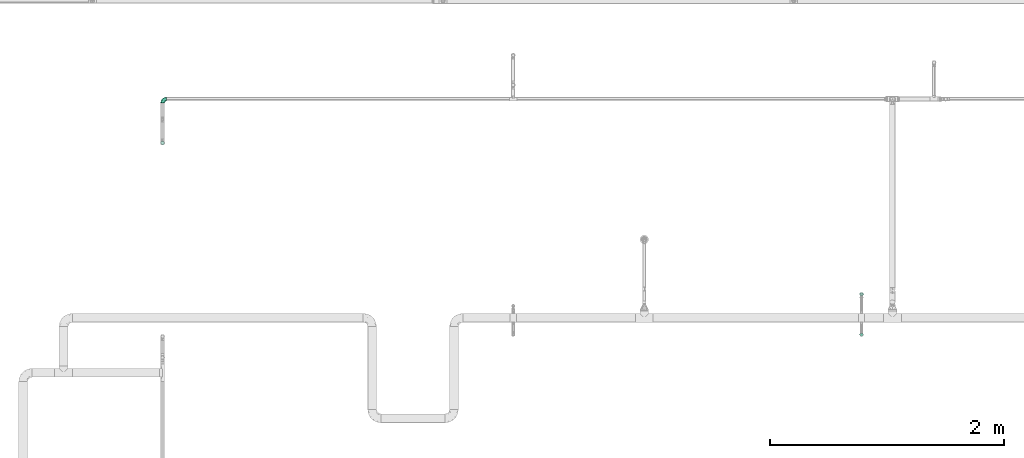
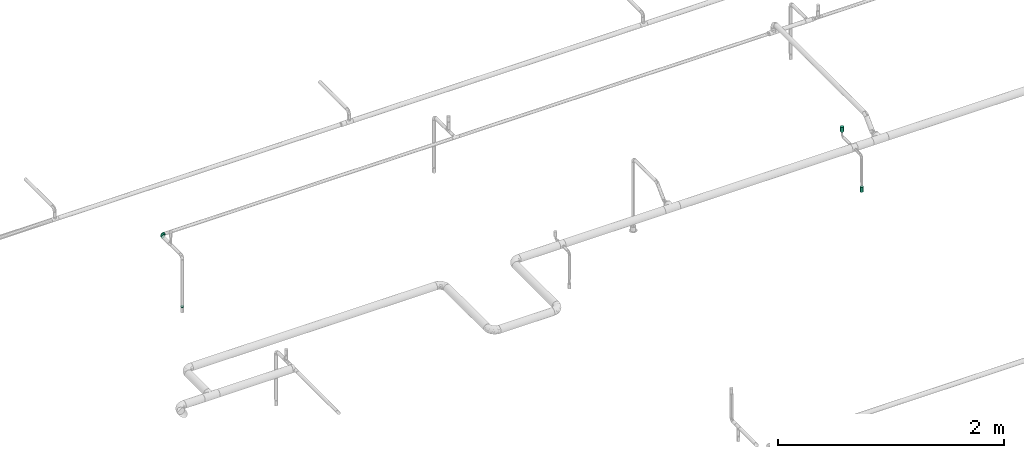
# One storey, part 27 of 51: 2 flow fittings, 2 flow terminals.
"""IFC2X3 building model written with IfcOpenShell, lengths in millimetres."""

from ifc_helpers import new_model, entity, si_unit, converted_unit, derived_unit, direction, frame, origin_with_axes, place, context, subcontext, project, spatial, open_shell, surface_model, source, transform, mapped, type_object, element, save


model = new_model("IFC2X3")

# Units and contexts
model_context = context("Model", 3, precision=0.01, world=frame((0.0, 4.29681676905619e-09, 0.0)), true_north=direction((4.01073788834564e-13, 1.0)))
plan_context = context("Plan", 3, precision=0.01, world=frame((0.0, 4.29681676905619e-09, 0.0)), true_north=direction((4.01073788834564e-13, 1.0)))
body_context = subcontext(model_context, "Body", "Model", "MODEL_VIEW")
ifc_project = project(units=[converted_unit("PLANEANGLEUNIT", "DEGREE", entity("IfcPositiveLengthMeasure", 0.0174532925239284), si_unit("PLANEANGLEUNIT", "RADIAN"), dimensions=[0, 0, 0, 0, 0, 0, 0]), si_unit("AREAUNIT", "SQUARE_METRE"), si_unit("LENGTHUNIT", "METRE", prefix="MILLI"), si_unit("MASSUNIT", "GRAM", prefix="KILO"), si_unit("POWERUNIT", "WATT"), si_unit("PRESSUREUNIT", "PASCAL"), si_unit("FORCEUNIT", "NEWTON", prefix="KILO"), si_unit("ELECTRICVOLTAGEUNIT", "VOLT"), si_unit("ELECTRICCURRENTUNIT", "AMPERE"), si_unit("THERMODYNAMICTEMPERATUREUNIT", "DEGREE_CELSIUS"), si_unit("TIMEUNIT", "SECOND"), si_unit("VOLUMEUNIT", "CUBIC_METRE"), derived_unit("LINEARVELOCITYUNIT", [(si_unit("LENGTHUNIT", "METRE"), 1), (si_unit("TIMEUNIT", "SECOND"), -1)]), derived_unit("VOLUMETRICFLOWRATEUNIT", [(si_unit("VOLUMEUNIT", "CUBIC_METRE"), 1), (si_unit("TIMEUNIT", "SECOND"), -1)]), derived_unit("THERMALTRANSMITTANCEUNIT", [(si_unit("POWERUNIT", "WATT"), 1), (si_unit("THERMODYNAMICTEMPERATUREUNIT", "KELVIN"), -1), (si_unit("AREAUNIT", "SQUARE_METRE"), -1)]), derived_unit("SOUNDPRESSUREUNIT", [(si_unit("PRESSUREUNIT", "PASCAL"), 1)])], contexts=[model_context, plan_context])

# Site, building, storey
site_placement = place(None, frame((0.0, -4.29681676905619e-09, 0.0), z_axis=(0.0, 0.0, 1.0), x_axis=(1.0, 0.0, 0.0)))
site = spatial("IfcSite", under=ifc_project, at=site_placement, Name="ENGM", CompositionType="ELEMENT")
building_placement = place(site_placement, frame((0.0, 4.29681676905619e-09, 0.0), z_axis=(0.0, 0.0, 1.0), x_axis=(1.0, 0.0, 0.0)))
building = spatial("IfcBuilding", under=site, at=building_placement, Name="TH", CompositionType="ELEMENT")
storey_placement = place(building_placement, frame((0.0, 0.0, 210200.0), z_axis=(0.0, 0.0, 1.0), x_axis=(1.0, 0.0, 0.0)))
storey = spatial("IfcBuildingStorey", under=building, at=storey_placement, Name="Nivå F - 0,7 m", CompositionType="ELEMENT", Elevation=210200.0)

# Flow fittings
pipe_fitting_type_1 = type_object("IfcPipeFittingType", Name="magi_pipe_fe_elbow_short_001", PredefinedType="BEND")
shared_shape_1 = source(origin_with_axes(), body_context, "Body", "SurfaceModel", [
    surface_model("IfcShellBasedSurfaceModel", [(-33.8, 8.45, -14.63583), (-33.8, 4.37404, -16.32415), (-33.8, 11.9501, -11.9501), (-33.8, -11.9501, -11.9501), (-33.8, -14.63583, -8.45), (-33.8, -8.45, -14.63583), (-33.8, 0.0, -16.9), (-33.8, -4.37404, -16.32415), (-33.8, -4.37404, 16.32415), (-33.8, 0.0, 16.9), (-33.8, -8.45, 14.63583), (-33.8, 16.32415, -4.37404), (-33.8, 14.63583, -8.45), (-33.8, -16.32415, -4.37404), (-33.8, -16.9, 0.0), (-33.8, -16.32415, 4.37404), (-33.8, 11.9501, 11.9501), (-33.8, 14.63583, 8.45), (-33.8, 16.32415, 4.37404), (-33.8, 4.37404, 16.32415), (-33.8, 8.45, 14.63583), (-33.8, -14.63583, 8.45), (-33.8, -11.9501, 11.9501), (-33.8, 16.9, 0.0), (-11.9501, 33.8, -11.9501), (0.0, 33.8, -16.9), (-4.37404, 33.8, -16.32415), (-8.45, 33.8, -14.63583), (-14.63583, 33.8, -8.45), (-16.32415, 33.8, -4.37404), (14.63583, 33.8, -8.45), (8.45, 33.8, 14.63583), (16.32415, 33.8, -4.37404), (8.45, 33.8, -14.63583), (11.9501, 33.8, -11.9501), (4.37404, 33.8, -16.32415), (16.32415, 33.8, 4.37404), (16.9, 33.8, 0.0), (-11.9501, 33.8, 11.9501), (-16.32415, 33.8, 4.37404), (-14.63583, 33.8, 8.45), (-8.45, 33.8, 14.63583), (-4.37404, 33.8, 16.32415), (11.9501, 33.8, 11.9501), (14.63583, 33.8, 8.45), (0.0, 33.8, 16.9), (4.37404, 33.8, 16.32415), (-16.9, 33.8, 0.0), (-24.79389, -13.12945, 9.48721), (-22.19287, -9.75018, 12.59315), (-24.09897, -14.97035, 0.0), (-14.93934, -10.76256, 8.5297), (-22.46095, -14.75051, 5.27077), (14.75051, 22.46094, 5.27077), (11.9251, 13.23888, 4.33236), (13.04069, 14.39795, 0.0), (7.71387, 13.68847, 11.55891), (9.75018, 22.19287, 12.59315), (4.10169, 13.0571, 14.04018), (-24.84007, -6.39063, 15.2048), (-25.81779, -2.23879, 16.61097), (-23.66549, 2.59054, 16.87119), (-26.50418, 14.06512, 11.08152), (-24.21253, 17.66365, 7.72657), (-29.58514, 15.86957, 7.00283), (-6.17382, -7.5455, 0.0), (-13.23888, -11.9251, 4.33236), (-14.39795, -13.04069, 0.0), (-17.81434, 18.87373, 11.97104), (-6.30846, 29.15138, 15.82987), (-2.31622, 25.28002, 16.85849), (-29.23923, 10.23435, 13.77053), (-1.45439, -2.85688, 7.61475), (-0.28326, 0.34872, 10.09509), (-5.74484, -4.04709, 10.4122), (-4.41137, 11.31918, 16.59407), (-8.39727, 3.10034, 15.7812), (-1.72649, 9.1306, 15.53089), (-17.39909, 24.75344, 7.64977), (-26.19233, 20.0512, 0.0), (-28.14518, 17.29657, 4.25857), (-26.05147, 6.6281, 15.96447), (-5.87354, 16.61944, 16.86968), (-12.51807, 12.51807, 16.48937), (-10.06312, 7.38516, 16.81295), (-3.01882, 3.01882, 13.81718), (-13.0571, -4.10169, 14.04018), (-16.82553, -0.15166, 16.38038), (10.76256, 14.93934, 8.5297), (13.12945, 24.79389, 9.48721), (6.39063, 24.84007, 15.2048), (2.23879, 25.81779, 16.61097), (-13.68847, -7.71387, 11.55891), (14.97035, 24.09897, 0.0), (-7.30894, 22.89991, 16.09489), (-10.67958, 26.17414, 14.008), (-12.78295, 18.26924, 15.06066), (-13.88562, 22.45231, 12.93244), (-18.04944, 15.16501, 14.04434), (-23.11658, 20.08178, 4.02986), (-21.84989, 21.84989, 0.0), (-18.55817, 25.48277, 3.93065), (-13.95142, 26.94732, 11.03289), (-18.57098, 7.23906, 16.59756), (-16.58335, 4.14122, 16.89279), (-17.96666, 11.46709, 15.63151), (-9.84453, 17.54304, 16.18938), (0.15166, 16.82553, 16.38038), (-23.27207, 11.47201, 14.23154), (3.84842, 5.86994, 10.70473), (-8.0212, -7.54413, 7.93275), (1.00345, -2.19508, 4.57414), (5.13203, 3.01004, 5.90201), (5.24161, 1.7543, 2.53265), (8.70457, 7.04947, 3.99182), (-20.0512, 26.19233, 0.0), (8.4852, 8.76699, 7.09296), (-4.55488, -6.72064, 4.90681), (2.05031, -2.05031, 0.0), (7.5455, 6.17382, 0.0), (-26.75399, 2.1369, -16.845), (-14.61995, 24.73803, -11.27736), (-28.45274, -13.45335, -9.81895), (-26.00469, 6.63555, -15.96645), (-23.06726, 20.04573, -4.26202), (-13.80647, -4.26506, -14.17873), (-14.67501, -0.21081, -16.07388), (-6.7902, -0.2828, -13.8478), (-24.53586, 11.08096, -14.13417), (-26.72048, 14.00837, -11.05776), (10.0967, 24.44989, -12.75976), (5.83237, 21.40218, -15.03047), (6.66249, 28.54238, -15.38093), (-20.38182, 15.48705, -12.74596), (12.53268, 21.23441, -9.15363), (12.54494, 15.67504, -5.54878), (9.7522, 12.89279, -8.66343), (-15.65186, 19.64213, -13.01327), (-12.03528, 20.66498, -14.67665), (-15.61907, 15.61906, -14.83879), (-25.56551, -15.26206, 0.0), (-24.65452, -15.12934, -5.50955), (13.45335, 28.45274, -9.81895), (15.12934, 24.65452, -5.50955), (-7.35442, -8.31014, -5.65563), (-15.67504, -12.54494, -5.54878), (-24.44989, -10.0967, -12.75976), (0.16522, 0.41303, -9.71728), (-5.70658, -5.33066, -8.89288), (-5.13869, -2.37198, -11.53565), (-21.23441, -12.53268, -9.15363), (0.71146, 7.93863, -14.09382), (0.21081, 14.67501, -16.07388), (3.49291, 14.42772, -14.76381), (-24.89911, -2.13088, -16.591), (-28.54238, -6.66249, -15.38093), (-18.44386, -7.71663, -13.26957), (2.13088, 24.89911, -16.591), (-28.64342, 17.44413, -2.89318), (1.70017, -1.28722, -5.09504), (-16.57067, 26.81947, -7.36596), (-17.69055, 27.4263, -3.76405), (-12.89279, -9.7522, -8.66343), (-5.96611, 5.96611, -15.95814), (-20.53709, 20.09345, -8.28985), (-2.1369, 26.75399, -16.845), (-6.89872, 24.58781, -16.02578), (-10.60739, 26.53157, -13.98044), (-21.40218, -5.83237, -15.03047), (2.93192, 5.89627, -11.55917), (6.89393, 12.61842, -11.82233), (5.58056, 5.95325, -8.79455), (-3.99512, 18.61798, -16.89635), (8.31014, 7.35442, -5.65563), (-9.1383, 9.86148, -16.89041), (-9.99983, 16.02119, -16.39699), (-16.68576, 9.78031, -16.34199), (-27.01915, 16.61158, -7.12979), (15.26206, 25.56551, 0.0), (-18.61798, 3.99512, -16.89635), (-19.37495, 27.82495, 0.0), (-12.61842, -6.89393, -11.82233), (-18.84705, 19.14018, -10.96545)], [open_shell([[[0, 1, 2]], [[3, 4, 5]], [[6, 7, 5]], [[8, 9, 10]], [[1, 6, 2]], [[11, 12, 2]], [[4, 2, 6]], [[2, 13, 10]], [[5, 4, 6]], [[2, 4, 13]], [[14, 15, 13]], [[11, 2, 16]], [[11, 17, 18]], [[11, 16, 17]], [[19, 20, 16]], [[16, 2, 10]], [[19, 16, 10]], [[21, 22, 15]], [[22, 13, 15]], [[22, 10, 13]], [[10, 9, 19]], [[11, 18, 23]], [[24, 25, 26]], [[24, 26, 27]], [[24, 28, 29]], [[25, 24, 30]], [[31, 32, 24]], [[33, 30, 34]], [[33, 35, 25]], [[25, 30, 33]], [[32, 30, 24]], [[32, 36, 37]], [[38, 24, 29]], [[39, 40, 29]], [[40, 38, 29]], [[38, 41, 42]], [[38, 31, 24]], [[31, 38, 42]], [[36, 43, 44]], [[36, 32, 43]], [[31, 45, 46]], [[32, 31, 43]], [[42, 45, 31]], [[39, 29, 47]], [[22, 48, 49]], [[15, 14, 50]], [[51, 48, 52]], [[53, 54, 55]], [[48, 22, 21]], [[15, 52, 21]], [[56, 57, 58]], [[49, 10, 22]], [[49, 59, 10]], [[9, 60, 61]], [[62, 63, 64]], [[65, 66, 67]], [[57, 43, 31]], [[62, 68, 63]], [[42, 69, 70]], [[20, 71, 16]], [[8, 60, 9]], [[72, 73, 74]], [[75, 76, 77]], [[16, 62, 17]], [[40, 39, 78]], [[79, 23, 80]], [[64, 18, 17]], [[9, 61, 19]], [[19, 81, 20]], [[82, 83, 84]], [[74, 85, 86]], [[59, 86, 87]], [[88, 89, 57]], [[90, 31, 46]], [[44, 53, 36]], [[46, 45, 91]], [[54, 53, 88]], [[44, 89, 53]], [[92, 86, 49]], [[89, 44, 43]], [[10, 59, 8]], [[53, 55, 93]], [[93, 36, 53]], [[66, 52, 67]], [[94, 82, 70]], [[95, 96, 94]], [[97, 98, 96]], [[79, 99, 100]], [[41, 38, 95]], [[101, 100, 99]], [[68, 78, 63]], [[42, 41, 69]], [[23, 18, 80]], [[95, 94, 69]], [[78, 101, 99]], [[38, 102, 95]], [[70, 45, 42]], [[97, 95, 102]], [[15, 50, 52]], [[90, 57, 31]], [[57, 90, 58]], [[81, 19, 61]], [[103, 104, 84]], [[105, 81, 103]], [[38, 40, 102]], [[106, 96, 83]], [[94, 106, 82]], [[91, 70, 107]], [[71, 62, 16]], [[62, 108, 98]], [[86, 59, 49]], [[67, 52, 50]], [[60, 59, 87]], [[92, 49, 51]], [[86, 85, 76]], [[91, 90, 46]], [[37, 36, 93]], [[107, 77, 58]], [[107, 58, 90]], [[58, 85, 109]], [[110, 74, 92]], [[72, 74, 110]], [[66, 51, 52]], [[72, 111, 112]], [[113, 114, 112]], [[56, 88, 57]], [[52, 48, 21]], [[49, 48, 51]], [[57, 89, 43]], [[53, 89, 88]], [[103, 81, 61]], [[71, 81, 108]], [[18, 64, 80]], [[63, 78, 99]], [[47, 115, 101]], [[101, 115, 100]], [[40, 78, 102]], [[68, 102, 78]], [[97, 96, 95]], [[105, 98, 108]], [[103, 84, 83]], [[107, 70, 82]], [[76, 84, 87]], [[82, 84, 75]], [[70, 91, 45]], [[90, 91, 107]], [[59, 60, 8]], [[61, 60, 87]], [[73, 85, 74]], [[109, 112, 116]], [[103, 61, 104]], [[105, 103, 83]], [[96, 105, 83]], [[81, 105, 108]], [[96, 98, 105]], [[62, 98, 68]], [[61, 87, 104]], [[87, 84, 104]], [[86, 76, 87]], [[77, 76, 85]], [[58, 77, 85]], [[75, 77, 107]], [[82, 75, 107]], [[76, 75, 84]], [[81, 71, 20]], [[62, 71, 108]], [[95, 69, 41]], [[70, 69, 94]], [[62, 64, 17]], [[80, 63, 99]], [[63, 80, 64]], [[80, 99, 79]], [[66, 65, 117]], [[110, 66, 117]], [[112, 114, 116]], [[118, 117, 65]], [[110, 92, 51]], [[112, 111, 113]], [[119, 55, 54]], [[74, 86, 92]], [[58, 109, 56]], [[116, 56, 109]], [[66, 110, 51]], [[72, 110, 117]], [[111, 72, 117]], [[73, 112, 109]], [[117, 118, 111]], [[113, 111, 118]], [[118, 119, 113]], [[114, 119, 54]], [[119, 114, 113]], [[116, 54, 88]], [[54, 116, 114]], [[116, 88, 56]], [[112, 73, 72]], [[85, 73, 109]], [[78, 39, 101]], [[47, 101, 39]], [[102, 68, 97]], [[97, 68, 98]], [[82, 106, 83]], [[94, 96, 106]], [[1, 120, 6]], [[28, 24, 121]], [[3, 122, 4]], [[0, 123, 1]], [[100, 124, 79]], [[125, 126, 127]], [[128, 2, 129]], [[130, 131, 132]], [[128, 129, 133]], [[134, 135, 136]], [[137, 138, 139]], [[128, 0, 2]], [[67, 140, 141]], [[134, 142, 143]], [[141, 13, 4]], [[144, 65, 145]], [[146, 3, 5]], [[147, 148, 149]], [[145, 141, 150]], [[151, 152, 153]], [[154, 7, 6]], [[5, 155, 146]], [[150, 146, 156]], [[155, 5, 7]], [[143, 135, 134]], [[35, 157, 25]], [[23, 79, 158]], [[148, 159, 144]], [[160, 161, 29]], [[145, 162, 144]], [[163, 152, 151]], [[29, 28, 160]], [[121, 164, 160]], [[33, 34, 130]], [[25, 165, 26]], [[26, 165, 166]], [[142, 34, 30]], [[24, 27, 167]], [[124, 161, 164]], [[157, 35, 132]], [[155, 154, 168]], [[123, 0, 128]], [[169, 170, 171]], [[172, 157, 152]], [[26, 166, 27]], [[132, 35, 33]], [[142, 130, 34]], [[168, 154, 126]], [[136, 135, 173]], [[133, 137, 139]], [[2, 12, 129]], [[170, 131, 130]], [[30, 32, 143]], [[172, 174, 175]], [[176, 123, 128]], [[158, 177, 11]], [[135, 55, 119]], [[167, 27, 166]], [[175, 166, 172]], [[137, 167, 138]], [[122, 141, 4]], [[140, 14, 13]], [[32, 37, 178]], [[170, 130, 134]], [[152, 157, 131]], [[165, 157, 172]], [[153, 170, 151]], [[152, 163, 174]], [[168, 125, 156]], [[122, 146, 150]], [[120, 154, 6]], [[179, 174, 126]], [[179, 126, 154]], [[126, 163, 127]], [[162, 145, 150]], [[140, 13, 141]], [[32, 178, 143]], [[55, 143, 178]], [[177, 129, 12]], [[128, 133, 139]], [[176, 128, 139]], [[120, 123, 179]], [[121, 160, 28]], [[161, 100, 180]], [[166, 175, 138]], [[121, 24, 167]], [[161, 47, 29]], [[79, 124, 158]], [[124, 164, 177]], [[161, 124, 100]], [[136, 171, 170]], [[127, 163, 151]], [[147, 171, 159]], [[148, 144, 162]], [[127, 151, 169]], [[127, 181, 125]], [[129, 177, 164]], [[12, 11, 177]], [[159, 65, 144]], [[67, 141, 145]], [[143, 55, 135]], [[135, 119, 173]], [[123, 120, 1]], [[154, 120, 179]], [[157, 165, 25]], [[166, 165, 172]], [[172, 152, 174]], [[176, 139, 175]], [[126, 174, 163]], [[176, 174, 179]], [[174, 176, 175]], [[123, 176, 179]], [[150, 181, 162]], [[127, 149, 181]], [[181, 148, 162]], [[159, 148, 147]], [[171, 136, 173]], [[170, 134, 136]], [[159, 171, 173]], [[171, 147, 169]], [[169, 147, 149]], [[151, 170, 169]], [[164, 182, 129]], [[182, 121, 137]], [[181, 149, 148]], [[169, 149, 127]], [[182, 137, 133]], [[167, 137, 121]], [[166, 138, 167]], [[175, 139, 138]], [[129, 182, 133]], [[121, 182, 164]], [[161, 160, 164]], [[47, 161, 180]], [[177, 158, 124]], [[23, 158, 11]], [[130, 132, 33]], [[157, 132, 131]], [[143, 142, 30]], [[130, 142, 134]], [[154, 155, 7]], [[146, 155, 168]], [[146, 122, 3]], [[141, 122, 150]], [[152, 131, 153]], [[159, 119, 118]], [[67, 145, 65]], [[170, 153, 131]], [[119, 159, 173]], [[159, 118, 65]], [[156, 125, 181]], [[126, 125, 168]], [[150, 156, 181]], [[168, 156, 146]]])]),
])
flow_fitting_1_placement = place(storey_placement, frame((897100.0, 486201.02538, 2949.56988), z_axis=(0.0, 0.00018099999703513, 0.9999999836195), x_axis=(-1.0, 0.0, 0.0)))
element("IfcFlowFitting", 1, at=flow_fitting_1_placement, inside=storey, type_object=pipe_fitting_type_1, Name="magi_pipe_fe_elbow_short_001", context=body_context, shape_type="MappedRepresentation", body=[
    mapped(shared_shape_1, transform((0.0, 0.0, 0.0), scale=1.0)),
])
pipe_fitting_type_2 = type_object("IfcPipeFittingType", Name="magi_pipe_fe_reducer_centric_short_NOR", PredefinedType="TRANSITION")
shared_shape_2 = source(origin_with_axes(), body_context, "Body", "SurfaceModel", [
    surface_model("IfcShellBasedSurfaceModel", [(14.4, 4.37404, -16.32415), (14.4, 8.45, -14.63583), (14.4, 11.9501, -11.9501), (14.4, -8.45, -14.63583), (14.4, 16.32415, -4.37404), (14.4, 16.32415, 4.37404), (14.4, 14.63583, -8.45), (14.4, 0.0, -16.9), (14.4, -4.37404, -16.32415), (14.4, -11.9501, -11.9501), (14.4, -16.32415, -4.37404), (14.4, -14.63583, -8.45), (14.4, -16.32415, 4.37404), (14.4, 16.9, 0.0), (14.4, 14.63583, 8.45), (14.4, 11.9501, 11.9501), (14.4, 4.37404, 16.32415), (14.4, 8.45, 14.63583), (14.4, 0.0, 16.9), (14.4, -14.63583, 8.45), (14.4, -16.9, 0.0), (14.4, -8.45, 14.63583), (14.4, -11.9501, 11.9501), (14.4, -4.37404, 16.32415), (12.4, 4.37404, 16.32415), (12.4, -14.63583, 8.45), (12.4, 0.0, 16.9), (12.4, 16.32415, 4.37404), (12.4, 8.45, 14.63583), (12.4, 11.9501, 11.9501), (12.4, 14.63583, 8.45), (12.4, -8.45, 14.63583), (12.4, -11.9501, 11.9501), (12.4, -4.37404, 16.32415), (12.4, -16.32415, 4.37404), (12.4, -16.32415, -4.37404), (12.4, -16.9, 0.0), (12.4, -8.45, -14.63583), (12.4, 16.32415, -4.37404), (12.4, 11.9501, -11.9501), (12.4, 14.63583, -8.45), (12.4, 8.45, -14.63583), (12.4, 4.37404, -16.32415), (12.4, 0.0, -16.9), (12.4, -11.9501, -11.9501), (12.4, -14.63583, -8.45), (12.4, -4.37404, -16.32415), (12.4, 16.9, 0.0), (-2.0, 10.33541, 2.76936), (-2.0, 0.0, 10.7), (-2.0, 2.76936, 10.33541), (-2.0, 7.56604, 7.56604), (-2.0, 5.35, 9.26647), (-2.0, 9.26647, 5.35), (-2.0, -9.26647, 5.35), (-2.0, -2.76936, 10.33541), (-2.0, -7.56604, 7.56604), (-2.0, -5.35, 9.26647), (-2.0, -10.33541, 2.76936), (-2.0, -10.33541, -2.76936), (-2.0, -10.7, 0.0), (-2.0, 10.33541, -2.76936), (-2.0, 7.56604, -7.56604), (-2.0, 9.26647, -5.35), (-2.0, 5.35, -9.26647), (-2.0, -5.35, -9.26647), (-2.0, 2.76936, -10.33541), (-2.0, -7.56604, -7.56604), (-2.0, -9.26647, -5.35), (-2.0, 0.0, -10.7), (-2.0, -2.76936, -10.33541), (-2.0, 10.7, 0.0), (0.0, 5.35, -9.26647), (0.0, 0.0, -10.7), (0.0, 2.76936, -10.33541), (0.0, 10.33541, -2.76936), (0.0, 7.56604, -7.56604), (0.0, -5.35, -9.26647), (0.0, 9.26647, -5.35), (0.0, -9.26647, 5.35), (0.0, -2.76936, -10.33541), (0.0, -7.56604, -7.56604), (0.0, -10.33541, -2.76936), (0.0, -9.26647, -5.35), (0.0, 10.33541, 2.76936), (0.0, 10.7, 0.0), (0.0, 9.26647, 5.35), (0.0, 7.56604, 7.56604), (0.0, 2.76936, 10.33541), (0.0, 0.0, 10.7), (0.0, 5.35, 9.26647), (0.0, -10.33541, 2.76936), (0.0, -10.7, 0.0), (0.0, -7.56604, 7.56604), (0.0, -2.76936, 10.33541), (0.0, -5.35, 9.26647), (0.0, -9.3625, -2.31662), (12.4, -14.42505, -5.97505), (12.4, -15.66253, -2.98753), (0.0, 6.6875, -6.94985), (12.4, 8.96258, -13.18758), (0.0, -6.6875, -6.94985), (12.4, -8.96258, -13.18758), (0.0, 9.3625, -2.31662), (12.4, 15.66253, -2.98753), (12.4, 14.42505, -5.97505), (12.4, -5.97505, -14.42505), (12.4, 5.97505, -14.42505), (0.0, 2.675, -9.26647), (12.4, 13.18758, -8.96258), (0.0, -2.675, -9.26647), (12.4, -13.18758, -8.96258), (0.0, -8.025, -4.63324), (12.4, 2.98753, -15.66253), (0.0, 0.0, -9.26647), (12.4, -2.98753, -15.66253), (0.0, 8.025, -4.63324), (0.0, 9.3625, 2.31662), (12.4, 14.42505, 5.97505), (12.4, 15.66253, 2.98753), (0.0, -6.6875, 6.94985), (12.4, -8.96258, 13.18758), (0.0, 6.6875, 6.94985), (12.4, 8.96258, 13.18758), (0.0, -9.3625, 2.31662), (12.4, -15.66253, 2.98753), (12.4, -14.42505, 5.97505), (12.4, 5.97505, 14.42505), (12.4, -5.97505, 14.42505), (0.0, -2.675, 9.26647), (12.4, -13.18758, 8.96258), (0.0, 2.675, 9.26647), (12.4, 13.18758, 8.96258), (0.0, 8.025, 4.63324), (12.4, -2.98753, 15.66253), (0.0, 0.0, 9.26647), (12.4, 2.98753, 15.66253), (0.0, -8.025, 4.63324)], [open_shell([[[0, 1, 2]], [[3, 0, 2]], [[2, 4, 5]], [[4, 2, 6]], [[2, 5, 3]], [[7, 3, 8]], [[7, 0, 3]], [[9, 10, 11]], [[10, 9, 3]], [[3, 12, 10]], [[5, 4, 13]], [[5, 14, 15]], [[5, 15, 16]], [[16, 12, 3]], [[16, 15, 17]], [[12, 16, 18]], [[18, 19, 12]], [[20, 10, 12]], [[19, 21, 22]], [[19, 18, 21]], [[21, 18, 23]], [[3, 5, 16]], [[24, 25, 26]], [[27, 24, 28]], [[29, 30, 27]], [[29, 27, 28]], [[25, 24, 27]], [[31, 25, 32]], [[31, 33, 26]], [[26, 25, 31]], [[34, 25, 27]], [[34, 35, 36]], [[34, 27, 37]], [[27, 38, 39]], [[39, 38, 40]], [[39, 41, 42]], [[37, 27, 39]], [[42, 43, 39]], [[35, 44, 45]], [[44, 35, 37]], [[37, 43, 46]], [[35, 34, 37]], [[39, 43, 37]], [[38, 27, 47]], [[35, 10, 36]], [[45, 11, 35]], [[3, 44, 37]], [[45, 44, 9]], [[8, 37, 46]], [[35, 11, 10]], [[10, 20, 36]], [[8, 3, 37]], [[9, 44, 3]], [[9, 11, 45]], [[7, 8, 46]], [[46, 43, 7]], [[42, 0, 43]], [[41, 1, 42]], [[6, 39, 40]], [[41, 39, 2]], [[4, 40, 38]], [[41, 2, 1]], [[1, 0, 42]], [[13, 4, 38]], [[6, 40, 4]], [[6, 2, 39]], [[47, 13, 38]], [[43, 0, 7]], [[27, 5, 47]], [[30, 14, 27]], [[17, 29, 28]], [[30, 29, 15]], [[16, 28, 24]], [[27, 14, 5]], [[5, 13, 47]], [[16, 17, 28]], [[15, 29, 17]], [[15, 14, 30]], [[18, 16, 24]], [[24, 26, 18]], [[33, 23, 26]], [[31, 21, 33]], [[19, 32, 25]], [[31, 32, 22]], [[12, 25, 34]], [[31, 22, 21]], [[21, 23, 33]], [[20, 12, 34]], [[19, 25, 12]], [[19, 22, 32]], [[36, 20, 34]], [[26, 23, 18]], [[48, 49, 50]], [[51, 50, 52]], [[51, 53, 48]], [[51, 48, 50]], [[49, 48, 54]], [[55, 56, 57]], [[56, 55, 54]], [[58, 59, 60]], [[54, 55, 49]], [[58, 54, 59]], [[54, 48, 61]], [[59, 54, 61]], [[62, 61, 63]], [[59, 62, 64]], [[61, 62, 59]], [[65, 64, 66]], [[59, 67, 68]], [[67, 59, 65]], [[65, 69, 70]], [[65, 59, 64]], [[66, 69, 65]], [[61, 48, 71]], [[72, 73, 74]], [[75, 72, 76]], [[77, 72, 75]], [[75, 76, 78]], [[79, 77, 75]], [[73, 77, 80]], [[73, 72, 77]], [[81, 82, 83]], [[82, 81, 77]], [[77, 79, 82]], [[84, 75, 85]], [[84, 86, 87]], [[75, 87, 79]], [[88, 89, 87]], [[88, 87, 90]], [[79, 87, 89]], [[82, 91, 92]], [[79, 91, 82]], [[93, 94, 95]], [[94, 93, 79]], [[89, 94, 79]], [[75, 84, 87]], [[59, 82, 60]], [[68, 83, 59]], [[77, 67, 65]], [[68, 67, 81]], [[80, 65, 70]], [[59, 83, 82]], [[82, 92, 60]], [[80, 77, 65]], [[81, 67, 77]], [[81, 83, 68]], [[73, 80, 70]], [[70, 69, 73]], [[66, 74, 69]], [[64, 72, 66]], [[78, 62, 63]], [[64, 62, 76]], [[75, 63, 61]], [[64, 76, 72]], [[72, 74, 66]], [[85, 75, 61]], [[78, 63, 75]], [[78, 76, 62]], [[71, 85, 61]], [[69, 74, 73]], [[48, 84, 71]], [[53, 86, 48]], [[90, 51, 52]], [[53, 51, 87]], [[88, 52, 50]], [[48, 86, 84]], [[84, 85, 71]], [[88, 90, 52]], [[87, 51, 90]], [[87, 86, 53]], [[89, 88, 50]], [[50, 49, 89]], [[55, 94, 49]], [[57, 95, 55]], [[79, 56, 54]], [[57, 56, 93]], [[91, 54, 58]], [[57, 93, 95]], [[95, 94, 55]], [[92, 91, 58]], [[79, 54, 91]], [[79, 93, 56]], [[60, 92, 58]], [[49, 94, 89]], [[29, 26, 39]], [[39, 47, 29]], [[36, 26, 32]], [[36, 44, 43]], [[43, 39, 36]], [[36, 39, 26]], [[92, 95, 77]], [[85, 95, 90]], [[85, 72, 77]], [[85, 77, 95]], [[96, 97, 98]], [[92, 96, 98]], [[99, 100, 72]], [[98, 36, 92]], [[44, 101, 102]], [[101, 77, 102]], [[103, 104, 105]], [[85, 47, 104]], [[77, 106, 102]], [[107, 108, 72]], [[109, 39, 99]], [[106, 77, 110]], [[101, 111, 112]], [[113, 114, 108]], [[100, 99, 39]], [[110, 115, 106]], [[99, 116, 109]], [[100, 107, 72]], [[96, 112, 97]], [[105, 116, 103]], [[85, 104, 103]], [[108, 107, 113]], [[113, 43, 114]], [[116, 105, 109]], [[114, 115, 110]], [[43, 115, 114]], [[111, 101, 44]], [[111, 97, 112]], [[117, 118, 119]], [[85, 117, 119]], [[120, 121, 95]], [[119, 47, 85]], [[29, 122, 123]], [[122, 90, 123]], [[124, 125, 126]], [[92, 36, 125]], [[90, 127, 123]], [[128, 129, 95]], [[130, 32, 120]], [[127, 90, 131]], [[122, 132, 133]], [[134, 135, 129]], [[121, 120, 32]], [[131, 136, 127]], [[120, 137, 130]], [[121, 128, 95]], [[117, 133, 118]], [[126, 137, 124]], [[92, 125, 124]], [[129, 128, 134]], [[134, 26, 135]], [[137, 126, 130]], [[135, 136, 131]], [[26, 136, 135]], [[132, 122, 29]], [[132, 118, 133]]])]),
])
flow_fitting_2_placement = place(storey_placement, frame((897100.0, 485825.40642, 2396.95199999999), z_axis=(-1.0, 0.0, 0.0), x_axis=(0.0, 0.0, 1.0)))
element("IfcFlowFitting", 2, at=flow_fitting_2_placement, inside=storey, type_object=pipe_fitting_type_2, Name="magi_pipe_fe_reducer_centric_short_NOR", context=body_context, shape_type="MappedRepresentation", body=[
    mapped(shared_shape_2, transform((0.0, 0.0, 0.0), scale=1.0)),
])

# Flow terminals
fire_suppression_terminal_type_1 = type_object("IfcFireSuppressionTerminalType", Name="SP-15-K80-68DGR-STD-HIMLING", PredefinedType="NOTDEFINED")
shared_shape_3 = source(origin_with_axes(), body_context, "Body", "SurfaceModel", [
    surface_model("IfcShellBasedSurfaceModel", [(4.1411, -15.45481, 53.0), (8.0, -13.85641, 53.0), (11.31371, -11.31371, 53.0), (-8.0, -13.85641, 53.0), (15.45481, -4.1411, 53.0), (16.0, 0.0, 53.0), (13.85641, -8.0, 53.0), (0.0, -16.0, 53.0), (-4.1411, -15.45481, 53.0), (-13.85641, -8.0, 53.0), (-11.31371, -11.31371, 53.0), (-15.45481, -4.1411, 53.0), (15.45481, 4.1411, 53.0), (13.85641, 8.0, 53.0), (11.31371, 11.31371, 53.0), (-4.1411, 15.45481, 53.0), (8.0, 13.85641, 53.0), (4.1411, 15.45481, 53.0), (0.0, 16.0, 53.0), (-13.85641, 8.0, 53.0), (-15.45481, 4.1411, 53.0), (-16.0, 0.0, 53.0), (-11.31371, 11.31371, 53.0), (-8.0, 13.85641, 53.0), (0.0, 16.0, 0.0), (4.1411, 15.45481, 0.0), (8.0, 13.85641, 0.0), (-4.1411, 15.45481, 0.0), (11.31371, 11.31371, 0.0), (13.85641, 8.0, 0.0), (15.45481, 4.1411, 0.0), (-15.45481, -4.1411, 0.0), (-11.31371, 11.31371, 0.0), (-8.0, 13.85641, 0.0), (-13.85641, 8.0, 0.0), (-15.45481, 4.1411, 0.0), (-16.0, 0.0, 0.0), (4.1411, -15.45481, 0.0), (16.0, 0.0, 0.0), (15.45481, -4.1411, 0.0), (13.85641, -8.0, 0.0), (11.31371, -11.31371, 0.0), (8.0, -13.85641, 0.0), (-8.0, -13.85641, 0.0), (-13.85641, -8.0, 0.0), (-11.31371, -11.31371, 0.0), (0.0, -16.0, 0.0), (-4.1411, -15.45481, 0.0)], [open_shell([[[0, 1, 2]], [[3, 0, 2]], [[4, 5, 2]], [[4, 2, 6]], [[3, 2, 5]], [[7, 3, 8]], [[7, 0, 3]], [[3, 9, 10]], [[9, 3, 11]], [[5, 11, 3]], [[5, 12, 11]], [[12, 13, 14]], [[15, 12, 14]], [[16, 17, 18]], [[14, 16, 15]], [[18, 15, 16]], [[11, 19, 20]], [[21, 11, 20]], [[22, 15, 23]], [[15, 22, 19]], [[19, 11, 15]], [[11, 12, 15]], [[24, 25, 26]], [[27, 24, 26]], [[28, 29, 30]], [[27, 26, 28]], [[27, 28, 31]], [[27, 32, 33]], [[32, 27, 34]], [[34, 31, 35]], [[31, 34, 27]], [[35, 31, 36]], [[28, 30, 31]], [[37, 38, 39]], [[37, 39, 40]], [[41, 42, 37]], [[41, 37, 40]], [[38, 37, 43]], [[44, 43, 45]], [[43, 44, 31]], [[43, 46, 47]], [[43, 31, 38]], [[37, 46, 43]], [[38, 31, 30]], [[11, 31, 44]], [[45, 9, 44]], [[3, 43, 47]], [[45, 43, 10]], [[8, 47, 46]], [[31, 21, 36]], [[31, 11, 21]], [[44, 9, 11]], [[45, 10, 9]], [[3, 10, 43]], [[47, 8, 3]], [[46, 7, 8]], [[0, 37, 42]], [[41, 1, 42]], [[6, 40, 39]], [[41, 40, 2]], [[4, 39, 38]], [[37, 0, 7]], [[42, 1, 0]], [[41, 2, 1]], [[40, 6, 2]], [[4, 6, 39]], [[38, 5, 4]], [[37, 7, 46]], [[12, 38, 30]], [[13, 30, 29]], [[16, 26, 25]], [[17, 25, 24]], [[30, 13, 12]], [[12, 5, 38]], [[28, 14, 13]], [[28, 26, 14]], [[14, 26, 16]], [[25, 17, 16]], [[28, 13, 29]], [[24, 18, 17]], [[15, 27, 33]], [[32, 23, 33]], [[19, 34, 35]], [[32, 34, 22]], [[20, 35, 36]], [[27, 15, 18]], [[33, 23, 15]], [[32, 22, 23]], [[34, 19, 22]], [[20, 19, 35]], [[36, 21, 20]], [[27, 18, 24]]])]),
])
flow_terminal_1_placement = place(storey_placement, frame((903080.0, 484185.40642, 2600.0), z_axis=(0.0, 0.0, -1.0), x_axis=(-1.0, 0.0, 0.0)))
element("IfcFlowTerminal", 3, at=flow_terminal_1_placement, inside=storey, type_object=fire_suppression_terminal_type_1, Name="SP-15-K80-68DGR-STD-HIMLING", context=body_context, shape_type="MappedRepresentation", body=[
    mapped(shared_shape_3, transform((0.0, 0.0, 0.0), scale=1.0)),
])
fire_suppression_terminal_type_2 = type_object("IfcFireSuppressionTerminalType", Name="SP-15-K80-68DGR-STD-STÅENDE", PredefinedType="NOTDEFINED")
flow_terminal_2_placement = place(storey_placement, frame((903080.0, 484531.46933, 2984.5), z_axis=(0.0, 0.0, 1.0), x_axis=(1.0, 0.0, 0.0)))
element("IfcFlowTerminal", 4, at=flow_terminal_2_placement, inside=storey, type_object=fire_suppression_terminal_type_2, Name="SP-15-K80-68DGR-STD-STÅENDE", context=body_context, shape_type="MappedRepresentation", body=[
    mapped(shared_shape_3, transform((0.0, 0.0, 0.0), scale=1.0)),
])

save(model, "model.ifc")
